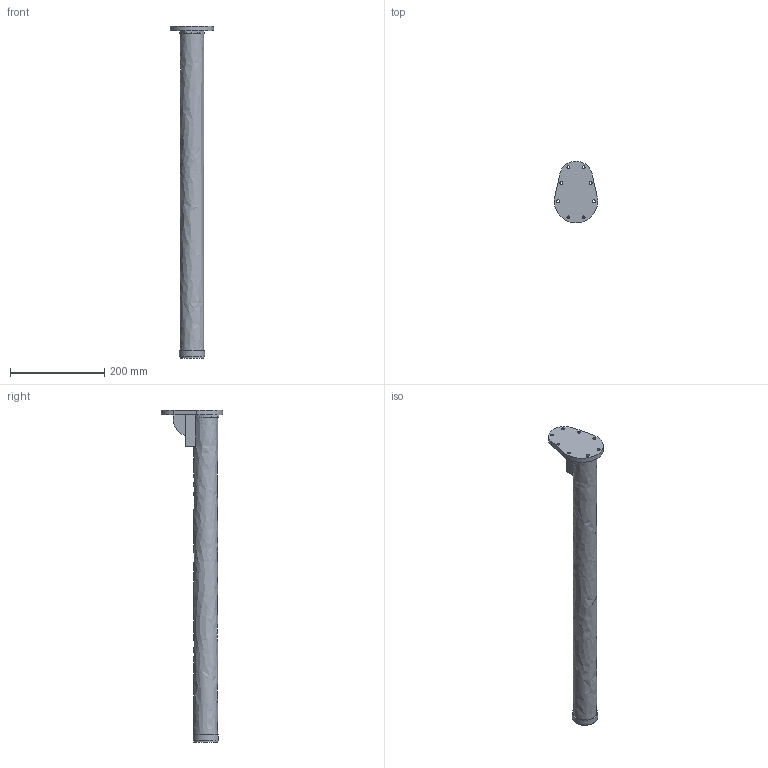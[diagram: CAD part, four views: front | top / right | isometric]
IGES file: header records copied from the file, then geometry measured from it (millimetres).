
Start section: Data from Parasolid IGES Translator 20.0.26, Copyright(c) 2006 Siemens P LM Software. All Rights Reserved.
Global section: file name: 46066.igs; native system: By Siemens PLM Incorporated; preprocessor: XPlus GENERIC/IGES 20.0.26; author: Noname; organization: Noname; date: 20210125.173458; units: millimetre
Bounding box: 91.93 x 130.92 x 703.5 mm (x, y, z)
Surface area: 138794.5 mm2 (no closed solid volume)
Topology: 0 solids, 0 shells, 41 faces, 220 edges, 201 vertices
Faces by surface type: extrusion 21, revolution 20
